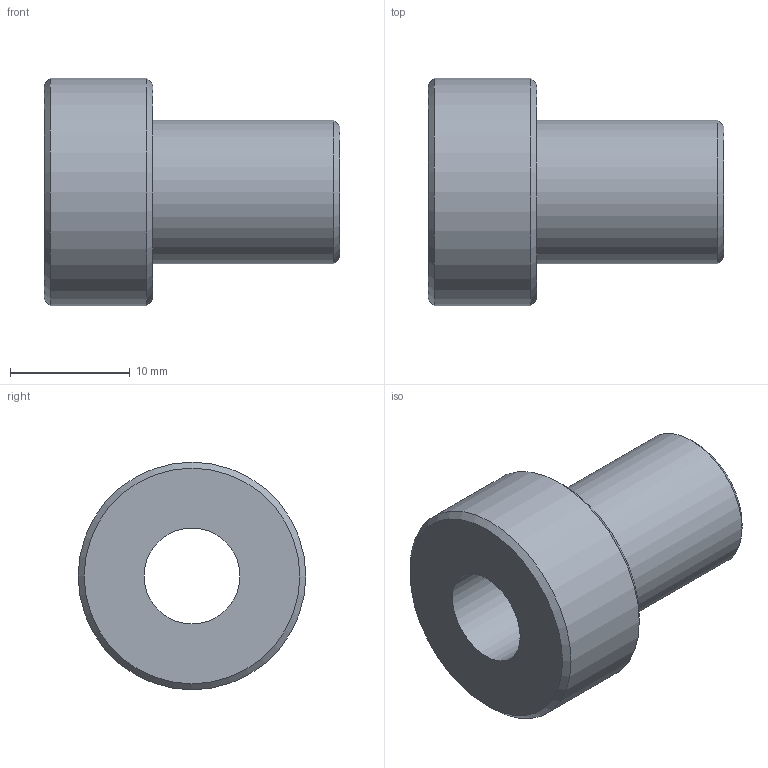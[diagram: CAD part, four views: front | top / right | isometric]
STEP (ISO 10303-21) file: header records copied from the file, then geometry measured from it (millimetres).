
FILE_DESCRIPTION((''),'2;1');
FILE_NAME('C:\Documents and Settings\土屋\My Documents\土屋移動用フォルダ\製品 (図面)\カタログ用3D\リニアガイド\VW\SB\SB3.stp','2015-02-21T14:14:45',('y'),(''),'Autodesk Inventor 11','Autodesk Inventor 11','');
FILE_SCHEMA(('AUTOMOTIVE_DESIGN { 1 0 10303 214 1 1 1 1 }'));
Length unit declared in the file: millimetre
Products named in the file (1): SB3
Bounding box: 24.68 x 19 x 19 mm (x, y, z)
Volume: 3075.6 mm3; surface area: 2169.5 mm2
Topology: 1 solids, 1 shells, 9 faces, 15 edges, 9 vertices
Faces by surface type: cone 3, plane 3, cylinder 3
Full cylindrical faces by diameter (mm): 8 x1, 12 x1, 19 x1
Entity records: 211 total; most frequent: DIRECTION 38, CARTESIAN_POINT 28, AXIS2_PLACEMENT_3D 19, ORIENTED_EDGE 18, EDGE_LOOP 18, VERTEX_POINT 9, CIRCLE 9, EDGE_CURVE 9
